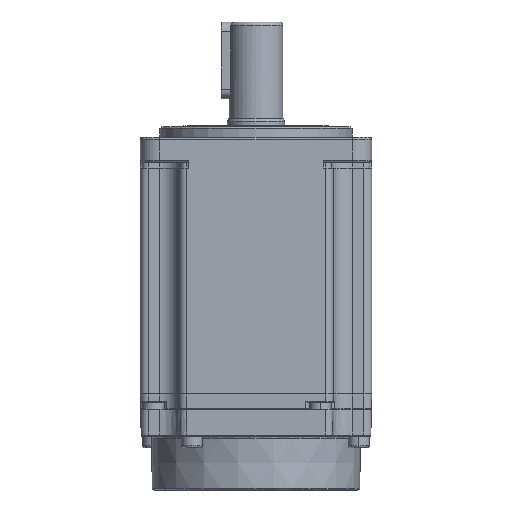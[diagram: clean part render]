
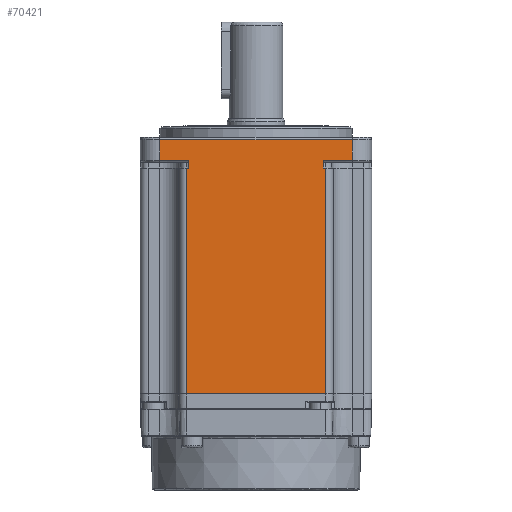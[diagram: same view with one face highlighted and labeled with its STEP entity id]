
A CAD part, front view. The second image highlights one B-rep face of the part: STEP entity #70421.
In plain terms, the highlighted planar face has unit normal (0, -1, 0).
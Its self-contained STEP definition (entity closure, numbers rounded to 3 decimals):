
#76 = CARTESIAN_POINT ( 'NONE',  ( -25.584, -39.646, 101.1 ) ) ;
#312 = ORIENTED_EDGE ( 'NONE', *, *, #61608, .T. ) ;
#1248 = ORIENTED_EDGE ( 'NONE', *, *, #71732, .T. ) ;
#1671 = ORIENTED_EDGE ( 'NONE', *, *, #2839, .T. ) ;
#2839 = EDGE_CURVE ( 'NONE', #8230, #34061, #30079, .T. ) ;
#2964 = ORIENTED_EDGE ( 'NONE', *, *, #17514, .T. ) ;
#3133 = ORIENTED_EDGE ( 'NONE', *, *, #5293, .T. ) ;
#3601 = CARTESIAN_POINT ( 'NONE',  ( -17.984, -39.646, 95.7 ) ) ;
#4452 = VERTEX_POINT ( 'NONE', #29347 ) ;
#5079 = CARTESIAN_POINT ( 'NONE',  ( -30.584, -39.646, 101.1 ) ) ;
#5293 = EDGE_CURVE ( 'NONE', #80774, #57081, #30863, .T. ) ;
#5435 = ORIENTED_EDGE ( 'NONE', *, *, #6476, .T. ) ;
#6397 = AXIS2_PLACEMENT_3D ( 'NONE', #66527, #26168, #73253 ) ;
#6476 = EDGE_CURVE ( 'NONE', #69892, #80774, #87570, .T. ) ;
#7221 = ORIENTED_EDGE ( 'NONE', *, *, #80071, .T. ) ;
#7832 = ORIENTED_EDGE ( 'NONE', *, *, #22826, .T. ) ;
#7987 = ORIENTED_EDGE ( 'NONE', *, *, #78939, .T. ) ;
#8230 = VERTEX_POINT ( 'NONE', #76 ) ;
#8528 = EDGE_CURVE ( 'NONE', #86325, #4452, #62977, .T. ) ;
#9245 = ORIENTED_EDGE ( 'NONE', *, *, #8528, .F. ) ;
#12241 = CARTESIAN_POINT ( 'NONE',  ( 17.616, -39.646, 93.7 ) ) ;
#12455 = PLANE ( 'NONE',  #6397 ) ;
#13055 = DIRECTION ( 'NONE',  ( -1., 0., 0. ) ) ;
#14814 = CARTESIAN_POINT ( 'NONE',  ( -17.984, -39.646, 102.1 ) ) ;
#16245 = CARTESIAN_POINT ( 'NONE',  ( -17.984, -39.646, 95.7 ) ) ;
#16678 = CARTESIAN_POINT ( 'NONE',  ( -25.584, -39.646, 95.7 ) ) ;
#17514 = EDGE_CURVE ( 'NONE', #57081, #8230, #44224, .T. ) ;
#18210 = LINE ( 'NONE', #14814, #52087 ) ;
#18802 = EDGE_LOOP ( 'NONE', ( #9245, #7987, #7832, #7221, #5435, #3133, #2964, #1671, #1248, #312, #87430, #87039 ) ) ;
#19368 = LINE ( 'NONE', #74038, #53243 ) ;
#19696 = LINE ( 'NONE', #19796, #53556 ) ;
#19796 = CARTESIAN_POINT ( 'NONE',  ( -18.584, -39.646, 102.1 ) ) ;
#21215 = LINE ( 'NONE', #53622, #41393 ) ;
#22671 = CARTESIAN_POINT ( 'NONE',  ( 24.616, -39.646, 95.7 ) ) ;
#22826 = EDGE_CURVE ( 'NONE', #52440, #37253, #21215, .T. ) ;
#26168 = DIRECTION ( 'NONE',  ( 0., 1., 0. ) ) ;
#26234 = VECTOR ( 'NONE', #86258, 1000. ) ;
#28068 = LINE ( 'NONE', #86103, #86049 ) ;
#29347 = CARTESIAN_POINT ( 'NONE',  ( -18.584, -39.646, 34.9 ) ) ;
#30050 = LINE ( 'NONE', #3601, #81653 ) ;
#30079 = LINE ( 'NONE', #65410, #65920 ) ;
#30863 = LINE ( 'NONE', #54869, #53053 ) ;
#34009 = CARTESIAN_POINT ( 'NONE',  ( -30.584, -39.646, 93.7 ) ) ;
#34061 = VERTEX_POINT ( 'NONE', #16678 ) ;
#37253 = VERTEX_POINT ( 'NONE', #50924 ) ;
#38334 = CARTESIAN_POINT ( 'NONE',  ( -17.984, -39.646, 93.7 ) ) ;
#41393 = VECTOR ( 'NONE', #13055, 1000. ) ;
#42180 = DIRECTION ( 'NONE',  ( 0., 0., -1. ) ) ;
#44206 = DIRECTION ( 'NONE',  ( 1., 0., 0. ) ) ;
#44224 = LINE ( 'NONE', #5079, #26234 ) ;
#45663 = CARTESIAN_POINT ( 'NONE',  ( 17.616, -39.646, 34.9 ) ) ;
#45841 = DIRECTION ( 'NONE',  ( 0., 0., 1. ) ) ;
#50479 = VERTEX_POINT ( 'NONE', #38334 ) ;
#50501 = VERTEX_POINT ( 'NONE', #85386 ) ;
#50924 = CARTESIAN_POINT ( 'NONE',  ( 17.016, -39.646, 93.7 ) ) ;
#51768 = CARTESIAN_POINT ( 'NONE',  ( 24.616, -39.646, 95.7 ) ) ;
#52087 = VECTOR ( 'NONE', #42180, 1000. ) ;
#52440 = VERTEX_POINT ( 'NONE', #12241 ) ;
#53053 = VECTOR ( 'NONE', #54688, 1000. ) ;
#53243 = VECTOR ( 'NONE', #80841, 1000. ) ;
#53556 = VECTOR ( 'NONE', #66998, 1000. ) ;
#53622 = CARTESIAN_POINT ( 'NONE',  ( -30.584, -39.646, 93.7 ) ) ;
#54688 = DIRECTION ( 'NONE',  ( 0., 0., 1. ) ) ;
#54869 = CARTESIAN_POINT ( 'NONE',  ( 24.616, -39.646, 102.1 ) ) ;
#57081 = VERTEX_POINT ( 'NONE', #75700 ) ;
#60987 = EDGE_CURVE ( 'NONE', #50479, #50501, #82687, .T. ) ;
#61608 = EDGE_CURVE ( 'NONE', #70703, #50479, #18210, .T. ) ;
#62898 = FACE_OUTER_BOUND ( 'NONE', #18802, .T. ) ;
#62977 = LINE ( 'NONE', #70244, #78709 ) ;
#64825 = VECTOR ( 'NONE', #67798, 1000. ) ;
#65410 = CARTESIAN_POINT ( 'NONE',  ( -25.584, -39.646, 102.1 ) ) ;
#65920 = VECTOR ( 'NONE', #68088, 1000. ) ;
#66527 = CARTESIAN_POINT ( 'NONE',  ( -30.584, -39.646, 102.1 ) ) ;
#66914 = CARTESIAN_POINT ( 'NONE',  ( 17.016, -39.646, 95.7 ) ) ;
#66998 = DIRECTION ( 'NONE',  ( 0., 0., -1. ) ) ;
#67502 = VECTOR ( 'NONE', #86778, 1000. ) ;
#67798 = DIRECTION ( 'NONE',  ( -1., 0., 0. ) ) ;
#67845 = DIRECTION ( 'NONE',  ( -1., 0., 0. ) ) ;
#68088 = DIRECTION ( 'NONE',  ( 0., 0., -1. ) ) ;
#69892 = VERTEX_POINT ( 'NONE', #66914 ) ;
#70244 = CARTESIAN_POINT ( 'NONE',  ( -30.584, -39.646, 34.9 ) ) ;
#70421 = ADVANCED_FACE ( 'NONE', ( #62898 ), #12455, .F. ) ;
#70703 = VERTEX_POINT ( 'NONE', #16245 ) ;
#71732 = EDGE_CURVE ( 'NONE', #34061, #70703, #30050, .T. ) ;
#73253 = DIRECTION ( 'NONE',  ( -1., 0., 0. ) ) ;
#74038 = CARTESIAN_POINT ( 'NONE',  ( 17.016, -39.646, 102.1 ) ) ;
#75700 = CARTESIAN_POINT ( 'NONE',  ( 24.616, -39.646, 101.1 ) ) ;
#77165 = EDGE_CURVE ( 'NONE', #50501, #4452, #19696, .T. ) ;
#78709 = VECTOR ( 'NONE', #67845, 1000. ) ;
#78939 = EDGE_CURVE ( 'NONE', #86325, #52440, #28068, .T. ) ;
#80071 = EDGE_CURVE ( 'NONE', #37253, #69892, #19368, .T. ) ;
#80774 = VERTEX_POINT ( 'NONE', #22671 ) ;
#80841 = DIRECTION ( 'NONE',  ( 0., 0., 1. ) ) ;
#81653 = VECTOR ( 'NONE', #44206, 1000. ) ;
#82687 = LINE ( 'NONE', #34009, #64825 ) ;
#85386 = CARTESIAN_POINT ( 'NONE',  ( -18.584, -39.646, 93.7 ) ) ;
#86049 = VECTOR ( 'NONE', #45841, 1000. ) ;
#86103 = CARTESIAN_POINT ( 'NONE',  ( 17.616, -39.646, 102.1 ) ) ;
#86258 = DIRECTION ( 'NONE',  ( -1., 0., 0. ) ) ;
#86325 = VERTEX_POINT ( 'NONE', #45663 ) ;
#86778 = DIRECTION ( 'NONE',  ( 1., 0., 0. ) ) ;
#87039 = ORIENTED_EDGE ( 'NONE', *, *, #77165, .T. ) ;
#87430 = ORIENTED_EDGE ( 'NONE', *, *, #60987, .T. ) ;
#87570 = LINE ( 'NONE', #51768, #67502 ) ;
